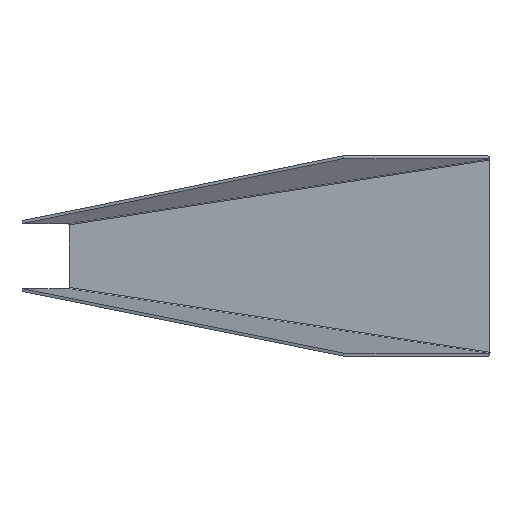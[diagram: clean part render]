
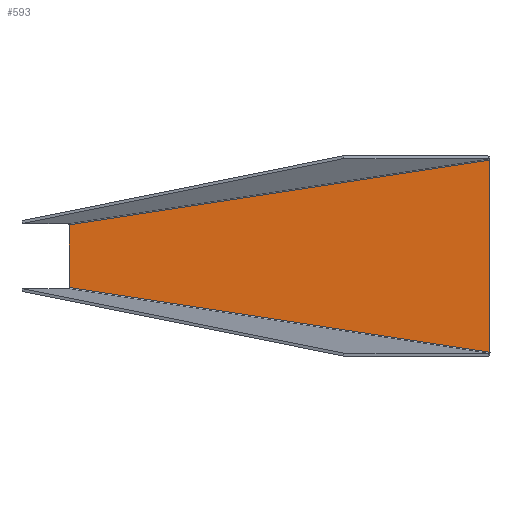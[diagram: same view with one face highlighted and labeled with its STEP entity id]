
A CAD part, top view. The second image highlights one B-rep face of the part: STEP entity #593.
In plain terms, the highlighted planar face has unit normal (0, 0, 1).
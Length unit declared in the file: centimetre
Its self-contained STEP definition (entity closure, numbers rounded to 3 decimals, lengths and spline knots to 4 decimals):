
#244=VERTEX_POINT('',#2010);
#246=VERTEX_POINT('',#2013);
#268=VERTEX_POINT('',#2167);
#270=VERTEX_POINT('',#2170);
#298=EDGE_CURVE('',#244,#246,#1205,.T.);
#334=EDGE_CURVE('',#268,#270,#1229,.T.);
#350=EDGE_CURVE('',#246,#268,#1240,.T.);
#351=EDGE_CURVE('',#270,#244,#1241,.T.);
#500=ORIENTED_EDGE('',*,*,#298,.F.);
#501=ORIENTED_EDGE('',*,*,#351,.F.);
#502=ORIENTED_EDGE('',*,*,#334,.F.);
#503=ORIENTED_EDGE('',*,*,#350,.F.);
#533=EDGE_LOOP('',(#500,#501,#502,#503));
#563=FACE_BOUND('',#533,.T.);
#593=ADVANCED_FACE('',(#563),#1347,.T.);
#1205=LINE('',#2012,#1640);
#1229=LINE('',#2169,#1664);
#1240=LINE('',#2268,#1675);
#1241=LINE('',#2270,#1676);
#1324=AXIS2_PLACEMENT_3D('',#2271,#1544,$);
#1347=PLANE('',#1324);
#1479=DIRECTION('',(-0.988,0.152,0.));
#1522=DIRECTION('',(0.988,0.152,0.));
#1541=DIRECTION('',(0.,1.,0.));
#1543=DIRECTION('',(0.,-1.,0.));
#1544=DIRECTION('',(0.,0.,1.));
#1640=VECTOR('',#1479,1.);
#1664=VECTOR('',#1522,1.);
#1675=VECTOR('',#1541,1.);
#1676=VECTOR('',#1543,1.);
#2010=CARTESIAN_POINT('',(5.0109,-6.4966,0.2));
#2012=CARTESIAN_POINT('',(-8.7363,-4.3833,0.2));
#2013=CARTESIAN_POINT('',(-23.4551,-2.1206,0.2));
#2167=CARTESIAN_POINT('',(-23.4551,2.1206,0.2));
#2169=CARTESIAN_POINT('',(-8.7363,4.3833,0.2));
#2170=CARTESIAN_POINT('',(5.0109,6.4966,0.2));
#2268=CARTESIAN_POINT('',(-23.4551,-2.2081,0.2));
#2270=CARTESIAN_POINT('',(5.0109,6.5841,0.2));
#2271=CARTESIAN_POINT('',(-7.5653,0.,0.2));
